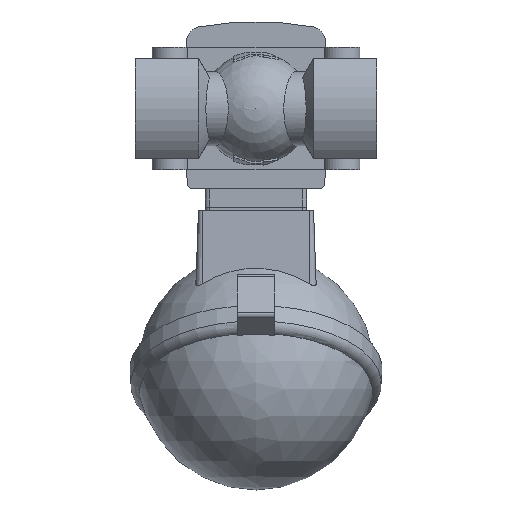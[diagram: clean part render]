
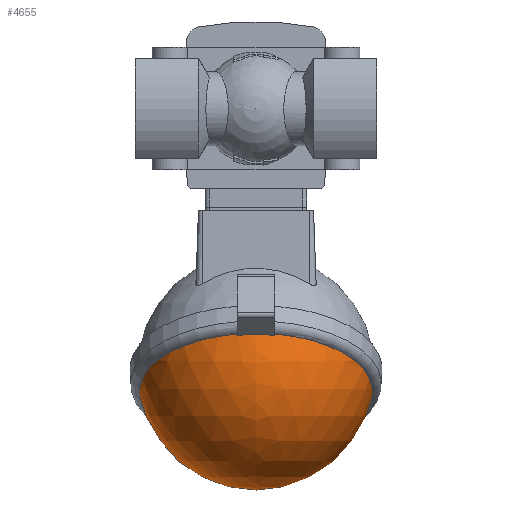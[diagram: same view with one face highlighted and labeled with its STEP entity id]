
A CAD part, front view. The second image highlights one B-rep face of the part: STEP entity #4655.
In plain terms, the highlighted spherical face has radius 32 mm.
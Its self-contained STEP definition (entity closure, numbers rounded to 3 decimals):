
#222=SPHERICAL_SURFACE('',#6163,32.);
#1571=ORIENTED_EDGE('',*,*,#2593,.F.);
#1572=ORIENTED_EDGE('',*,*,#2594,.T.);
#1573=ORIENTED_EDGE('',*,*,#2595,.T.);
#1574=ORIENTED_EDGE('',*,*,#2596,.F.);
#1575=ORIENTED_EDGE('',*,*,#2597,.F.);
#1576=ORIENTED_EDGE('',*,*,#2598,.F.);
#1577=ORIENTED_EDGE('',*,*,#2599,.T.);
#1578=ORIENTED_EDGE('',*,*,#2600,.T.);
#2593=EDGE_CURVE('',#3160,#3161,#3529,.F.);
#2594=EDGE_CURVE('',#3160,#3162,#3530,.F.);
#2595=EDGE_CURVE('',#3162,#3163,#3531,.F.);
#2596=EDGE_CURVE('',#3164,#3163,#3532,.F.);
#2597=EDGE_CURVE('',#3165,#3164,#3533,.F.);
#2598=EDGE_CURVE('',#3166,#3165,#3534,.F.);
#2599=EDGE_CURVE('',#3166,#3167,#3535,.F.);
#2600=EDGE_CURVE('',#3167,#3161,#3536,.F.);
#3160=VERTEX_POINT('',#8863);
#3161=VERTEX_POINT('',#8864);
#3162=VERTEX_POINT('',#8866);
#3163=VERTEX_POINT('',#8868);
#3164=VERTEX_POINT('',#8870);
#3165=VERTEX_POINT('',#8872);
#3166=VERTEX_POINT('',#8874);
#3167=VERTEX_POINT('',#8876);
#3529=CIRCLE('',#6164,31.368);
#3530=CIRCLE('',#6165,31.607);
#3531=CIRCLE('',#6166,31.291);
#3532=CIRCLE('',#6167,31.607);
#3533=CIRCLE('',#6168,31.368);
#3534=CIRCLE('',#6169,30.708);
#3535=CIRCLE('',#6170,30.984);
#3536=CIRCLE('',#6171,30.708);
#3834=EDGE_LOOP('',(#1571,#1572,#1573,#1574,#1575,#1576,#1577,#1578));
#4190=FACE_BOUND('',#3834,.T.);
#4655=ADVANCED_FACE('',(#4190),#222,.T.);
#6163=AXIS2_PLACEMENT_3D('',#8861,#7242,#7243);
#6164=AXIS2_PLACEMENT_3D('',#8862,#7244,#7245);
#6165=AXIS2_PLACEMENT_3D('',#8865,#7246,#7247);
#6166=AXIS2_PLACEMENT_3D('',#8867,#7248,#7249);
#6167=AXIS2_PLACEMENT_3D('',#8869,#7250,#7251);
#6168=AXIS2_PLACEMENT_3D('',#8871,#7252,#7253);
#6169=AXIS2_PLACEMENT_3D('',#8873,#7254,#7255);
#6170=AXIS2_PLACEMENT_3D('',#8875,#7256,#7257);
#6171=AXIS2_PLACEMENT_3D('',#8877,#7258,#7259);
#7242=DIRECTION('',(1.,0.,0.));
#7243=DIRECTION('',(0.,-1.,0.));
#7244=DIRECTION('',(-0.866,-0.5,0.));
#7245=DIRECTION('',(0.5,-0.866,0.));
#7246=DIRECTION('',(0.,0.,1.));
#7247=DIRECTION('',(1.,0.,0.));
#7248=DIRECTION('',(0.866,0.5,0.));
#7249=DIRECTION('',(-0.5,0.866,0.));
#7250=DIRECTION('',(0.,0.,1.));
#7251=DIRECTION('',(1.,0.,0.));
#7252=DIRECTION('',(-0.866,-0.5,0.));
#7253=DIRECTION('',(0.5,-0.866,0.));
#7254=DIRECTION('',(0.,0.,1.));
#7255=DIRECTION('',(1.,0.,0.));
#7256=DIRECTION('',(0.866,0.5,0.));
#7257=DIRECTION('',(-0.5,0.866,0.));
#7258=DIRECTION('',(0.,0.,1.));
#7259=DIRECTION('',(1.,0.,0.));
#8861=CARTESIAN_POINT('',(-70.7,0.,0.));
#8862=CARTESIAN_POINT('',(-76.183,-3.165,0.));
#8863=CARTESIAN_POINT('',(-60.699,-29.983,-5.));
#8864=CARTESIAN_POINT('',(-91.207,22.858,-9.));
#8865=CARTESIAN_POINT('',(-70.7,0.,-5.));
#8866=CARTESIAN_POINT('',(-61.058,-30.1,-5.));
#8867=CARTESIAN_POINT('',(-76.502,-3.35,0.));
#8868=CARTESIAN_POINT('',(-61.058,-30.1,5.));
#8869=CARTESIAN_POINT('',(-70.7,0.,5.));
#8870=CARTESIAN_POINT('',(-60.699,-29.983,5.));
#8871=CARTESIAN_POINT('',(-76.183,-3.165,0.));
#8872=CARTESIAN_POINT('',(-91.207,22.858,9.));
#8873=CARTESIAN_POINT('',(-70.7,0.,9.));
#8874=CARTESIAN_POINT('',(-92.452,21.676,9.));
#8875=CARTESIAN_POINT('',(-77.628,-4.,0.));
#8876=CARTESIAN_POINT('',(-92.452,21.676,-9.));
#8877=CARTESIAN_POINT('',(-70.7,0.,-9.));
